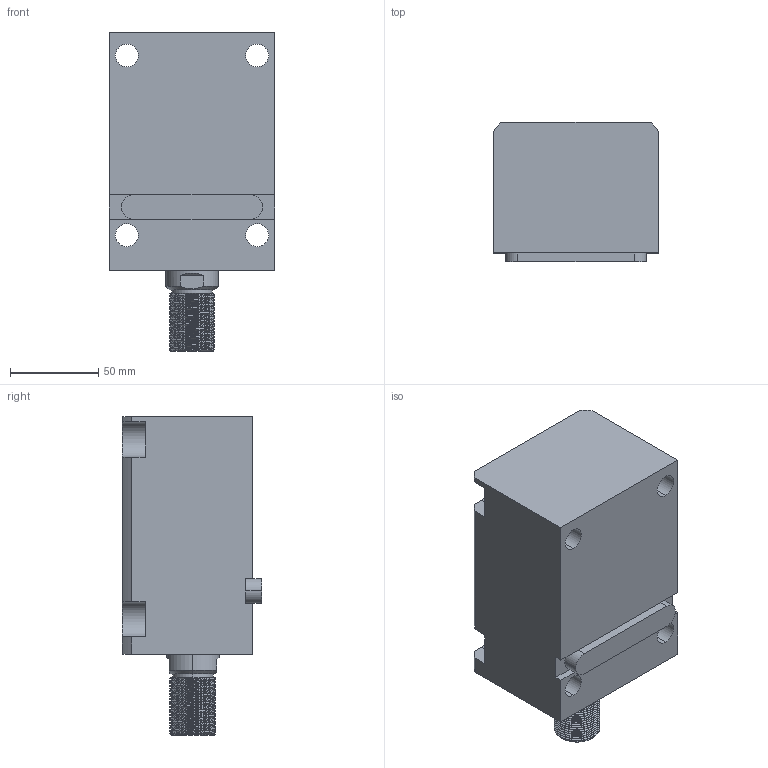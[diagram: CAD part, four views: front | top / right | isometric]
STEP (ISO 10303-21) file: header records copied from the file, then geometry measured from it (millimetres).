
FILE_DESCRIPTION (( 'STEP AP203' ), '1' );
FILE_NAME ('CHTB-LA50-75W.STEP', '2018-05-18T01:48:24', ( '' ), ( '' ), 'SwSTEP 2.0', 'SolidWorks 2015', '' );
FILE_SCHEMA (( 'CONFIG_CONTROL_DESIGN' ));
Length unit declared in the file: millimetre
Products named in the file (4): CHTM-SDMA50QG; 活塞杆LA50-75W; CHTB-LA50-75W; 掛极LA50-75W
Assembly tree (3 placements, depth 2):
  CHTB-LA50-75W
    掛极LA50-75W
    活塞杆LA50-75W
    CHTM-SDMA50QG
Bounding box: 94 x 79 x 181 mm (x, y, z)
Volume: 814370.5 mm3; surface area: 130439.2 mm2
Topology: 3 solids, 3 shells, 244 faces, 670 edges, 447 vertices
Faces by surface type: cylinder 136, plane 55, cone 21, bspline 16, torus 16
Entity records: 15046 total; most frequent: CARTESIAN_POINT 8903, ORIENTED_EDGE 1332, DIRECTION 1073, EDGE_CURVE 666, VERTEX_POINT 447, AXIS2_PLACEMENT_3D 416, EDGE_LOOP 277, ADVANCED_FACE 244
